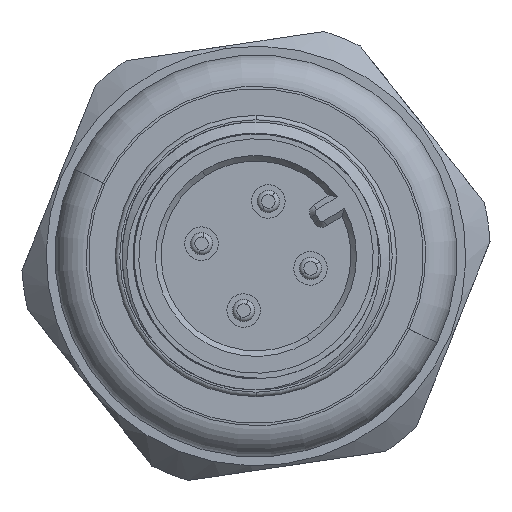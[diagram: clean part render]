
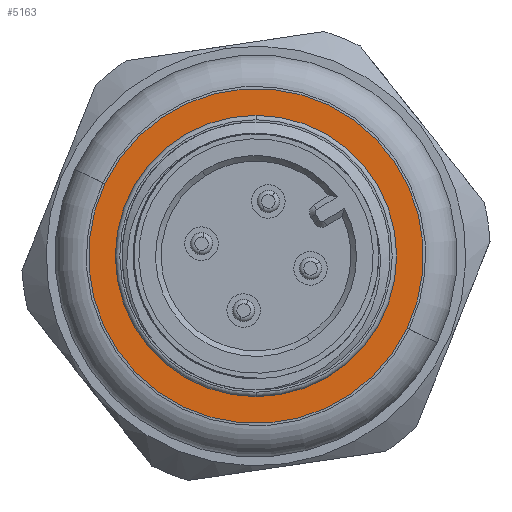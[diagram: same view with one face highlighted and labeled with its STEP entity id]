
A CAD part, left-side view. The second image highlights one B-rep face of the part: STEP entity #5163.
In plain terms, the highlighted planar face has unit normal (-1, 0, 0) as drawn and (0, 1, 0) by its records, which use the part's own axes.
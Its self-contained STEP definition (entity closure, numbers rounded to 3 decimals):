
#37 = CARTESIAN_POINT ( 'NONE',  ( 0., 38.6, 0. ) ) ;
#107 = CARTESIAN_POINT ( 'NONE',  ( 0., 38.6, -6. ) ) ;
#486 = ORIENTED_EDGE ( 'NONE', *, *, #1654, .T. ) ;
#692 = DIRECTION ( 'NONE',  ( 0., 1., 0. ) ) ;
#742 = FACE_OUTER_BOUND ( 'NONE', #2946, .T. ) ;
#881 = DIRECTION ( 'NONE',  ( 0., 0., -1. ) ) ;
#1524 = PLANE ( 'NONE',  #7104 ) ;
#1654 = EDGE_CURVE ( 'NONE', #4631, #10234, #4915, .T. ) ;
#2319 = AXIS2_PLACEMENT_3D ( 'NONE', #5847, #9051, #2610 ) ;
#2585 = EDGE_CURVE ( 'NONE', #8361, #9175, #8149, .T. ) ;
#2610 = DIRECTION ( 'NONE',  ( 0., 0., -1. ) ) ;
#2844 = AXIS2_PLACEMENT_3D ( 'NONE', #6794, #8431, #7544 ) ;
#2946 = EDGE_LOOP ( 'NONE', ( #6868, #5061 ) ) ;
#3043 = CARTESIAN_POINT ( 'NONE',  ( 0., 38.6, 0. ) ) ;
#3067 = FACE_BOUND ( 'NONE', #4597, .T. ) ;
#3203 = DIRECTION ( 'NONE',  ( 0., 0., -1. ) ) ;
#3215 = DIRECTION ( 'NONE',  ( 0., -1., 0. ) ) ;
#3967 = CARTESIAN_POINT ( 'NONE',  ( 0., 38.6, -7.5 ) ) ;
#4462 = EDGE_CURVE ( 'NONE', #10234, #4631, #6059, .T. ) ;
#4597 = EDGE_LOOP ( 'NONE', ( #486, #5271 ) ) ;
#4631 = VERTEX_POINT ( 'NONE', #107 ) ;
#4915 = CIRCLE ( 'NONE', #8140, 6. ) ;
#5061 = ORIENTED_EDGE ( 'NONE', *, *, #2585, .F. ) ;
#5163 = ADVANCED_FACE ( 'NONE', ( #3067, #742 ), #1524, .T. ) ;
#5271 = ORIENTED_EDGE ( 'NONE', *, *, #4462, .T. ) ;
#5298 = CARTESIAN_POINT ( 'NONE',  ( 0., 38.6, 7.5 ) ) ;
#5847 = CARTESIAN_POINT ( 'NONE',  ( 0., 38.6, 0. ) ) ;
#5928 = CARTESIAN_POINT ( 'NONE',  ( 0., 38.6, 6. ) ) ;
#6059 = CIRCLE ( 'NONE', #2844, 6. ) ;
#6299 = DIRECTION ( 'NONE',  ( 1., 0., 0. ) ) ;
#6794 = CARTESIAN_POINT ( 'NONE',  ( 0., 38.6, 0. ) ) ;
#6868 = ORIENTED_EDGE ( 'NONE', *, *, #8160, .F. ) ;
#7104 = AXIS2_PLACEMENT_3D ( 'NONE', #3967, #692, #6299 ) ;
#7544 = DIRECTION ( 'NONE',  ( 0., 0., -1. ) ) ;
#8140 = AXIS2_PLACEMENT_3D ( 'NONE', #3043, #10436, #3203 ) ;
#8149 = CIRCLE ( 'NONE', #10321, 7.5 ) ;
#8160 = EDGE_CURVE ( 'NONE', #9175, #8361, #8901, .T. ) ;
#8361 = VERTEX_POINT ( 'NONE', #5298 ) ;
#8431 = DIRECTION ( 'NONE',  ( 0., -1., 0. ) ) ;
#8901 = CIRCLE ( 'NONE', #2319, 7.5 ) ;
#9051 = DIRECTION ( 'NONE',  ( 0., -1., 0. ) ) ;
#9175 = VERTEX_POINT ( 'NONE', #10403 ) ;
#10234 = VERTEX_POINT ( 'NONE', #5928 ) ;
#10321 = AXIS2_PLACEMENT_3D ( 'NONE', #37, #3215, #881 ) ;
#10403 = CARTESIAN_POINT ( 'NONE',  ( 0., 38.6, -7.5 ) ) ;
#10436 = DIRECTION ( 'NONE',  ( 0., -1., 0. ) ) ;
